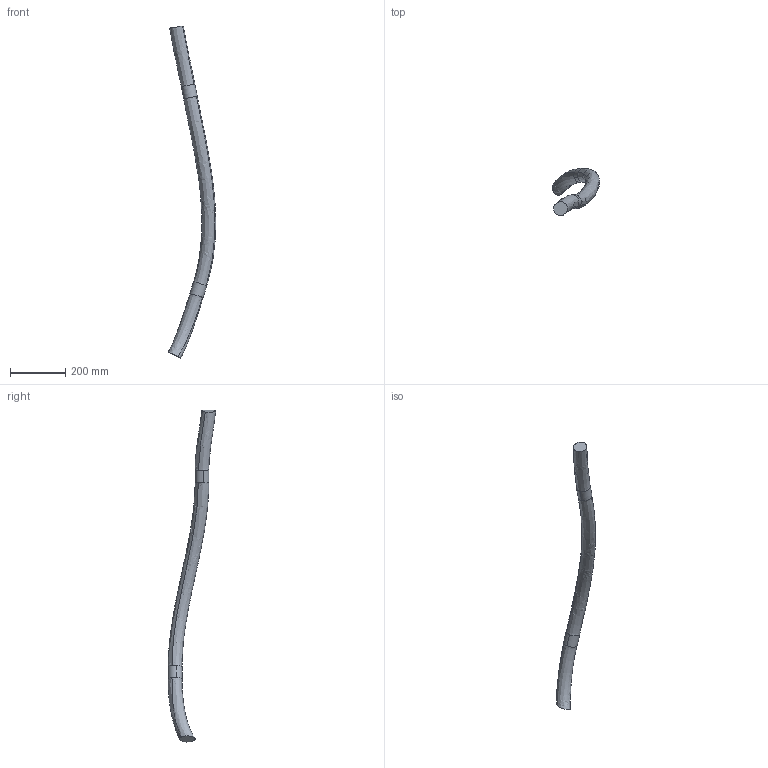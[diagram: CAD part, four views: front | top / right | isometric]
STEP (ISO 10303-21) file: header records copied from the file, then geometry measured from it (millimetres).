
FILE_DESCRIPTION (( 'STEP AP214' ), '1' );
FILE_NAME ('IRB6760-MH3_All_OC_00_LINK02_CABLE.step', '2025-09-30T13:11:52', ( '' ), ( '' ), 'SwSTEP 2.0', 'SolidWorks 2024', '' );
FILE_SCHEMA (( 'AUTOMOTIVE_DESIGN' ));
Length unit declared in the file: millimetre
Products named in the file (1): IRB6760-MH3_All_OC_00_LINK02_CABLE
Bounding box: 170.81 x 171.64 x 1197.21 mm (x, y, z)
Volume: 2411897.1 mm3; surface area: 197120.1 mm2
Topology: 1 solids, 1 shells, 12 faces, 30 edges, 20 vertices
Faces by surface type: bspline 6, cylinder 4, plane 2
Entity records: 2894 total; most frequent: CARTESIAN_POINT 2608, ORIENTED_EDGE 60, DIRECTION 50, EDGE_CURVE 30, AXIS2_PLACEMENT_3D 23, VERTEX_POINT 20, CIRCLE 16, ADVANCED_FACE 12
